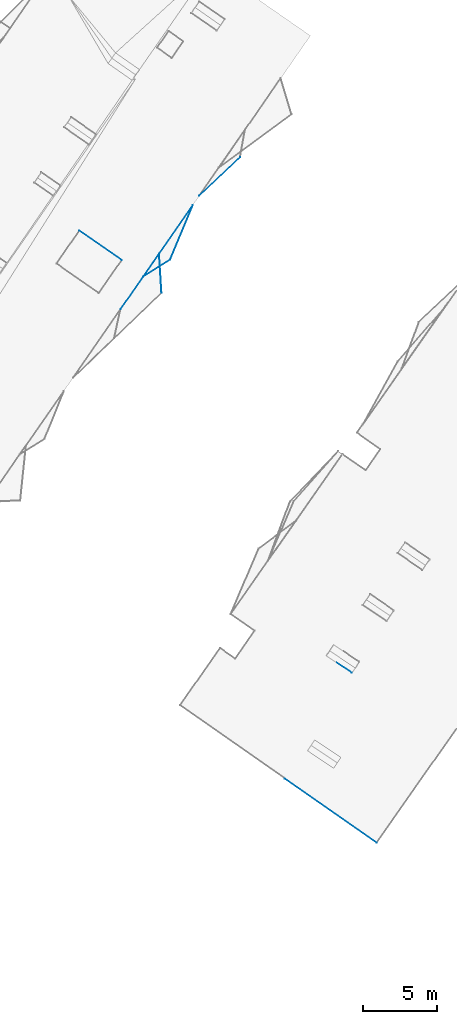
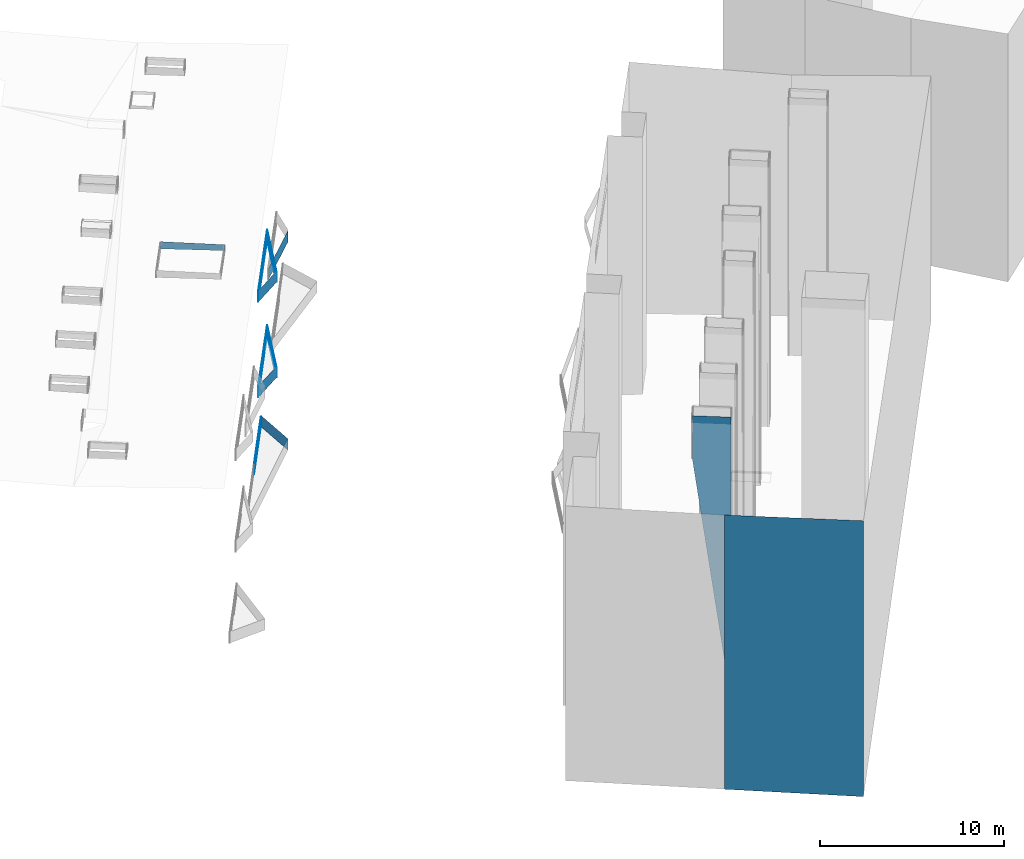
# Not in any storey, part 4 of 136: 20 walls.
"""IFC4 building model written with IfcOpenShell, lengths in metres."""

from ifc_helpers import new_model, entity, si_unit, converted_unit, frame, origin, place, context, subcontext, project, spatial, face_set, surface_model, element, save


model = new_model("IFC4")

# Units and contexts
model_context = context("Model", 3, precision=1e-05, world=origin())
body_context = subcontext(model_context, "Body", "Model", "MODEL_VIEW")
ifc_project = project(units=[converted_unit("PLANEANGLEUNIT", "DEGREE", entity("IfcRatioMeasure", 0.0174532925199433), si_unit("PLANEANGLEUNIT", "RADIAN"), dimensions=[0, 0, 0, 0, 0, 0, 0]), si_unit("AREAUNIT", "SQUARE_METRE"), si_unit("LENGTHUNIT", "METRE")], contexts=[model_context])

# Site, building
site_placement = place(None, origin())
site = spatial("IfcSite", under=ifc_project, at=site_placement, Name="_site")
building_1_placement = place(site_placement, origin())
building_1 = spatial("IfcBuilding", under=site, at=building_1_placement, Name="_building")

# Walls
wall_1_placement = place(building_1_placement, origin())
element("IfcWall", 1, at=wall_1_placement, inside=building_1, Name="Wall", PredefinedType="NOTDEFINED", context=body_context, shape_type="SurfaceModel", body=[
    surface_model("IfcFaceBasedSurfaceModel", [(8.08, 22.53, 54.41), (6.34, 23.69, 54.41), (6.34, 23.69, 51.566), (8.08, 22.53, 35.701)], [face_set([[[0, 1, 2, 3]]])]),
])
wall_2_placement = place(building_1_placement, origin())
element("IfcWall", 2, at=wall_2_placement, inside=building_1, Name="Wall", PredefinedType="NOTDEFINED", context=body_context, shape_type="SurfaceModel", body=[
    surface_model("IfcFaceBasedSurfaceModel", [(9.75, 11.04, 53.93), (3.55, 15.38, 53.85), (3.55, 15.38, 35.705), (9.75, 11.04, 35.673)], [face_set([[[0, 1, 2, 3]]])]),
])

# Building
building_2_placement = place(site_placement, origin())
building_2 = spatial("IfcBuilding", under=site, at=building_2_placement, Name="_building")

# Walls
wall_3_placement = place(building_2_placement, origin())
element("IfcWall", 3, at=wall_3_placement, inside=building_2, Name="Wall", PredefinedType="NOTDEFINED", context=body_context, shape_type="SurfaceModel", body=[
    surface_model("IfcFaceBasedSurfaceModel", [(-6.03, 49.33, 44.39), (-2.68, 54.16, 44.39), (-2.68, 54.16, 45.14), (-6.03, 49.33, 45.14)], [face_set([[[0, 1, 2, 3]]])]),
])
wall_4_placement = place(building_2_placement, origin())
element("IfcWall", 4, at=wall_4_placement, inside=building_2, Name="Wall", PredefinedType="NOTDEFINED", context=body_context, shape_type="SurfaceModel", body=[
    surface_model("IfcFaceBasedSurfaceModel", [(-2.68, 54.16, 44.39), (-4.22, 50.48, 44.39), (-4.22, 50.48, 45.14), (-2.68, 54.16, 45.14)], [face_set([[[0, 1, 2, 3]]])]),
])
wall_5_placement = place(building_2_placement, origin())
element("IfcWall", 5, at=wall_5_placement, inside=building_2, Name="Wall", PredefinedType="NOTDEFINED", context=body_context, shape_type="SurfaceModel", body=[
    surface_model("IfcFaceBasedSurfaceModel", [(-6.03, 49.33, 44.39), (-2.68, 54.16, 44.39), (-2.68, 54.16, 45.14), (-6.03, 49.33, 45.14)], [face_set([[[0, 1, 2, 3]]])]),
])
wall_6_placement = place(building_2_placement, origin())
element("IfcWall", 6, at=wall_6_placement, inside=building_2, Name="Wall", PredefinedType="NOTDEFINED", context=body_context, shape_type="SurfaceModel", body=[
    surface_model("IfcFaceBasedSurfaceModel", [(-4.22, 50.48, 44.39), (-6.03, 49.33, 44.39), (-6.03, 49.33, 45.14), (-4.22, 50.48, 45.14)], [face_set([[[0, 1, 2, 3]]])]),
])
wall_7_placement = place(building_2_placement, origin())
element("IfcWall", 7, at=wall_7_placement, inside=building_2, Name="Wall", PredefinedType="NOTDEFINED", context=body_context, shape_type="SurfaceModel", body=[
    surface_model("IfcFaceBasedSurfaceModel", [(-2.68, 54.16, 44.39), (-4.22, 50.48, 44.39), (-4.22, 50.48, 45.14), (-2.68, 54.16, 45.14)], [face_set([[[0, 1, 2, 3]]])]),
])
for number, where, name in (
    (8, (0.0, 0.0, 0.0), "Wall"),
    (9, (0.0, 0.0, 0.0), "Wall"),
):
    element("IfcWall", number, at=place(building_2_placement, frame(where)), inside=building_2, Name=name, PredefinedType="NOTDEFINED", context=body_context, shape_type="SurfaceModel", body=[
        surface_model("IfcFaceBasedSurfaceModel", [(0.51, 57.41, 47.54), (-2.24, 54.8, 47.54), (-2.24, 54.8, 48.29), (0.51, 57.41, 48.29)], [face_set([[[0, 1, 2, 3]]])]),
    ])
wall_8_placement = place(building_2_placement, origin())
element("IfcWall", 10, at=wall_8_placement, inside=building_2, Name="Wall", PredefinedType="NOTDEFINED", context=body_context, shape_type="SurfaceModel", body=[
    surface_model("IfcFaceBasedSurfaceModel", [(-2.68, 54.16, 50.7), (-4.22, 50.48, 50.7), (-4.22, 50.48, 51.45), (-2.68, 54.16, 51.45)], [face_set([[[0, 1, 2, 3]]])]),
])
for number, where, name in (
    (11, (0.0, 0.0, 0.0), "Wall"),
    (12, (0.0, 0.0, 0.0), "Wall"),
):
    element("IfcWall", number, at=place(building_2_placement, frame(where)), inside=building_2, Name=name, PredefinedType="NOTDEFINED", context=body_context, shape_type="SurfaceModel", body=[
        surface_model("IfcFaceBasedSurfaceModel", [(-6.03, 49.33, 50.7), (-2.68, 54.16, 50.7), (-2.68, 54.16, 51.45), (-6.03, 49.33, 51.45)], [face_set([[[0, 1, 2, 3]]])]),
    ])
wall_9_placement = place(building_2_placement, origin())
element("IfcWall", 13, at=wall_9_placement, inside=building_2, Name="Wall", PredefinedType="NOTDEFINED", context=body_context, shape_type="SurfaceModel", body=[
    surface_model("IfcFaceBasedSurfaceModel", [(-4.22, 50.48, 50.7), (-6.03, 49.33, 50.7), (-6.03, 49.33, 51.45), (-4.22, 50.48, 51.45)], [face_set([[[0, 1, 2, 3]]])]),
])
wall_10_placement = place(building_2_placement, origin())
element("IfcWall", 14, at=wall_10_placement, inside=building_2, Name="Wall", PredefinedType="NOTDEFINED", context=body_context, shape_type="SurfaceModel", body=[
    surface_model("IfcFaceBasedSurfaceModel", [(-2.68, 54.16, 50.7), (-4.22, 50.48, 50.7), (-4.22, 50.48, 51.45), (-2.68, 54.16, 51.45)], [face_set([[[0, 1, 2, 3]]])]),
])
wall_11_placement = place(building_2_placement, origin())
element("IfcWall", 15, at=wall_11_placement, inside=building_2, Name="Wall", PredefinedType="NOTDEFINED", context=body_context, shape_type="SurfaceModel", body=[
    surface_model("IfcFaceBasedSurfaceModel", [(-4.22, 50.48, 50.7), (-6.03, 49.33, 50.7), (-6.03, 49.33, 51.45), (-4.22, 50.48, 51.45)], [face_set([[[0, 1, 2, 3]]])]),
])
wall_12_placement = place(building_2_placement, origin())
element("IfcWall", 16, at=wall_12_placement, inside=building_2, Name="Wall", PredefinedType="NOTDEFINED", context=body_context, shape_type="SurfaceModel", body=[
    surface_model("IfcFaceBasedSurfaceModel", [(-4.22, 50.48, 44.39), (-6.03, 49.33, 44.39), (-6.03, 49.33, 45.14), (-4.22, 50.48, 45.14)], [face_set([[[0, 1, 2, 3]]])]),
])
wall_13_placement = place(building_2_placement, origin())
element("IfcWall", 17, at=wall_13_placement, inside=building_2, Name="Wall", PredefinedType="NOTDEFINED", context=body_context, shape_type="SurfaceModel", body=[
    surface_model("IfcFaceBasedSurfaceModel", [(-10.35, 52.44, 54.34), (-7.48, 50.45, 54.34), (-7.48, 50.45, 53.945), (-10.35, 52.44, 53.862)], [face_set([[[0, 1, 2, 3]]])]),
])
for number, where, name in (
    (18, (0.0, 0.0, 0.0), "Wall"),
    (19, (0.0, 0.0, 0.0), "Wall"),
):
    element("IfcWall", number, at=place(building_2_placement, frame(where)), inside=building_2, Name=name, PredefinedType="NOTDEFINED", context=body_context, shape_type="SurfaceModel", body=[
        surface_model("IfcFaceBasedSurfaceModel", [(-4.96, 50.88, 41.14), (-4.8, 48.24, 41.14), (-4.8, 48.24, 41.89), (-4.96, 50.88, 41.89)], [face_set([[[0, 1, 2, 3]]])]),
    ])
wall_14_placement = place(building_2_placement, origin())
element("IfcWall", 20, at=wall_14_placement, inside=building_2, Name="Wall", PredefinedType="NOTDEFINED", context=body_context, shape_type="SurfaceModel", body=[
    surface_model("IfcFaceBasedSurfaceModel", [(-7.57, 47.11, 41.14), (-4.96, 50.88, 41.14), (-4.96, 50.88, 41.89), (-7.57, 47.11, 41.89)], [face_set([[[0, 1, 2, 3]]])]),
])

save(model, "model.ifc")
